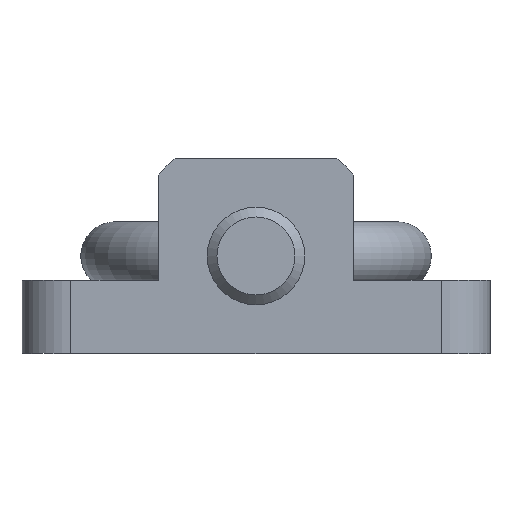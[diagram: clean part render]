
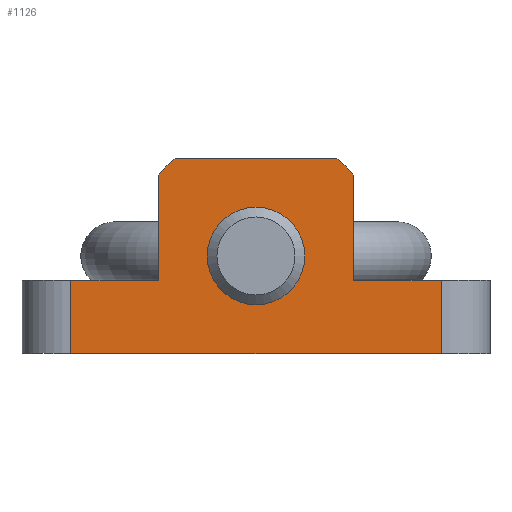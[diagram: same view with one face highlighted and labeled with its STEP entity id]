
A CAD part, front view. The second image highlights one B-rep face of the part: STEP entity #1126.
In plain terms, the highlighted planar face has unit normal (0, -1, 0).
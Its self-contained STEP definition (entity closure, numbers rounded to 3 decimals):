
#50=LINE('',#1776,#150);
#53=LINE('',#1786,#153);
#57=LINE('',#1798,#157);
#64=LINE('',#1820,#164);
#72=LINE('',#1848,#172);
#73=LINE('',#1850,#173);
#74=LINE('',#1851,#174);
#75=LINE('',#1853,#175);
#150=VECTOR('',#1408,1000.);
#153=VECTOR('',#1419,1000.);
#157=VECTOR('',#1431,1000.);
#164=VECTOR('',#1448,1000.);
#172=VECTOR('',#1472,1000.);
#173=VECTOR('',#1473,1000.);
#174=VECTOR('',#1474,1000.);
#175=VECTOR('',#1475,1000.);
#249=PLANE('',#1250);
#407=ORIENTED_EDGE('',*,*,#655,.F.);
#408=ORIENTED_EDGE('',*,*,#620,.F.);
#409=ORIENTED_EDGE('',*,*,#656,.F.);
#410=ORIENTED_EDGE('',*,*,#657,.T.);
#411=ORIENTED_EDGE('',*,*,#642,.F.);
#412=ORIENTED_EDGE('',*,*,#658,.F.);
#413=ORIENTED_EDGE('',*,*,#659,.F.);
#414=ORIENTED_EDGE('',*,*,#631,.F.);
#415=ORIENTED_EDGE('',*,*,#628,.F.);
#416=ORIENTED_EDGE('',*,*,#625,.F.);
#417=ORIENTED_EDGE('',*,*,#622,.F.);
#620=EDGE_CURVE('',#760,#761,#50,.T.);
#622=EDGE_CURVE('',#761,#762,#849,.T.);
#625=EDGE_CURVE('',#762,#764,#53,.T.);
#628=EDGE_CURVE('',#764,#766,#851,.T.);
#631=EDGE_CURVE('',#766,#768,#57,.T.);
#642=EDGE_CURVE('',#778,#779,#64,.T.);
#655=EDGE_CURVE('',#789,#789,#862,.T.);
#656=EDGE_CURVE('',#790,#760,#72,.T.);
#657=EDGE_CURVE('',#790,#779,#73,.T.);
#658=EDGE_CURVE('',#791,#778,#74,.T.);
#659=EDGE_CURVE('',#768,#791,#75,.T.);
#760=VERTEX_POINT('',#1775);
#761=VERTEX_POINT('',#1777);
#762=VERTEX_POINT('',#1781);
#764=VERTEX_POINT('',#1787);
#766=VERTEX_POINT('',#1793);
#768=VERTEX_POINT('',#1799);
#778=VERTEX_POINT('',#1821);
#779=VERTEX_POINT('',#1822);
#789=VERTEX_POINT('',#1847);
#790=VERTEX_POINT('',#1849);
#791=VERTEX_POINT('',#1852);
#849=CIRCLE('',#1232,13.);
#851=CIRCLE('',#1236,13.);
#862=CIRCLE('',#1251,5.);
#927=EDGE_LOOP('',(#407));
#928=EDGE_LOOP('',(#408,#409,#410,#411,#412,#413,#414,#415,#416,#417));
#1027=FACE_BOUND('',#927,.T.);
#1028=FACE_BOUND('',#928,.T.);
#1126=ADVANCED_FACE('',(#1027,#1028),#249,.F.);
#1232=AXIS2_PLACEMENT_3D('',#1780,#1412,#1413);
#1236=AXIS2_PLACEMENT_3D('',#1792,#1424,#1425);
#1250=AXIS2_PLACEMENT_3D('',#1845,#1468,#1469);
#1251=AXIS2_PLACEMENT_3D('',#1846,#1470,#1471);
#1408=DIRECTION('',(0.,0.,1.));
#1412=DIRECTION('',(0.,1.,0.));
#1413=DIRECTION('',(1.,0.,0.));
#1419=DIRECTION('',(1.,0.,0.));
#1424=DIRECTION('',(0.,1.,0.));
#1425=DIRECTION('',(1.,0.,0.));
#1431=DIRECTION('',(0.,0.,-1.));
#1448=DIRECTION('',(-1.,0.,0.));
#1468=DIRECTION('',(0.,1.,0.));
#1469=DIRECTION('',(0.,0.,1.));
#1470=DIRECTION('',(0.,-1.,0.));
#1471=DIRECTION('',(0.,0.,-1.));
#1472=DIRECTION('',(1.,0.,0.));
#1473=DIRECTION('',(0.,0.,-1.));
#1474=DIRECTION('',(0.,0.,-1.));
#1475=DIRECTION('',(1.,0.,0.));
#1775=CARTESIAN_POINT('',(-10.,0.,-2.5));
#1776=CARTESIAN_POINT('',(-10.,0.,-8.307));
#1777=CARTESIAN_POINT('',(-10.,0.,8.307));
#1780=CARTESIAN_POINT('',(0.,0.,0.));
#1781=CARTESIAN_POINT('',(-8.307,0.,10.));
#1786=CARTESIAN_POINT('',(-8.307,0.,10.));
#1787=CARTESIAN_POINT('',(8.307,0.,10.));
#1792=CARTESIAN_POINT('',(0.,0.,0.));
#1793=CARTESIAN_POINT('',(10.,0.,8.307));
#1798=CARTESIAN_POINT('',(10.,0.,8.307));
#1799=CARTESIAN_POINT('',(10.,0.,-2.5));
#1820=CARTESIAN_POINT('',(8.307,0.,-10.));
#1821=CARTESIAN_POINT('',(19.,0.,-10.));
#1822=CARTESIAN_POINT('',(-19.,0.,-10.));
#1845=CARTESIAN_POINT('',(0.,0.,0.));
#1846=CARTESIAN_POINT('',(0.,0.,0.));
#1847=CARTESIAN_POINT('',(0.,0.,-5.));
#1848=CARTESIAN_POINT('',(-19.,0.,-2.5));
#1849=CARTESIAN_POINT('',(-19.,0.,-2.5));
#1850=CARTESIAN_POINT('',(-19.,0.,-2.5));
#1851=CARTESIAN_POINT('',(19.,0.,-2.5));
#1852=CARTESIAN_POINT('',(19.,0.,-2.5));
#1853=CARTESIAN_POINT('',(-19.,0.,-2.5));
